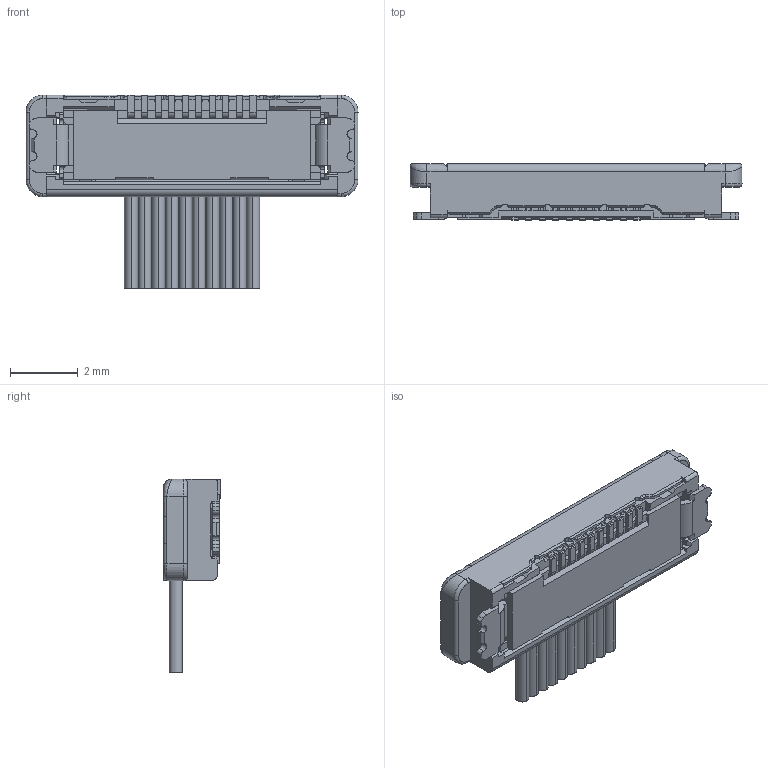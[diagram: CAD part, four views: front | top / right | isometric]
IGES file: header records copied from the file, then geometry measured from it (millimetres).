
Start section: SolidWorks IGES file using analytic representation for surfaces
Global section: file name: C:\Users\3dcad\Desktop\CAB-SS 3D僨乕僞\20374-020E-xx+20380-020T-03C MATING STEP R1R7R2 ALL.IGS,15; native system: HSolidWorks 2011; preprocessor: SolidWorks 2011; author: 3dcad; date: 120217.193417; units: millimetre
Bounding box: 9.8 x 1.68 x 5.72 mm (x, y, z)
Surface area: 255.5 mm2 (no closed solid volume)
Topology: 0 solids, 0 shells, 1154 faces, 8847 edges, 8843 vertices
Faces by surface type: bspline 811, revolution 343
